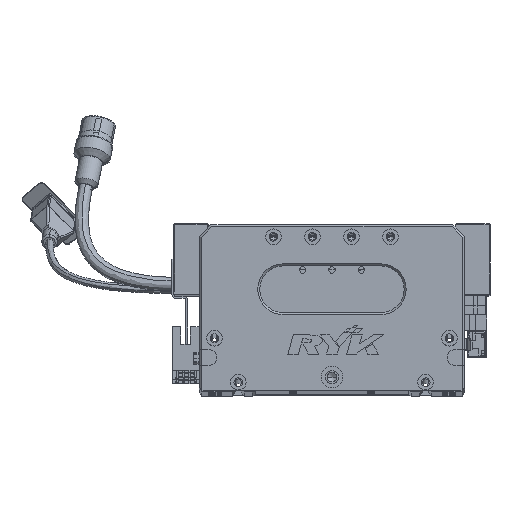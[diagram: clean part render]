
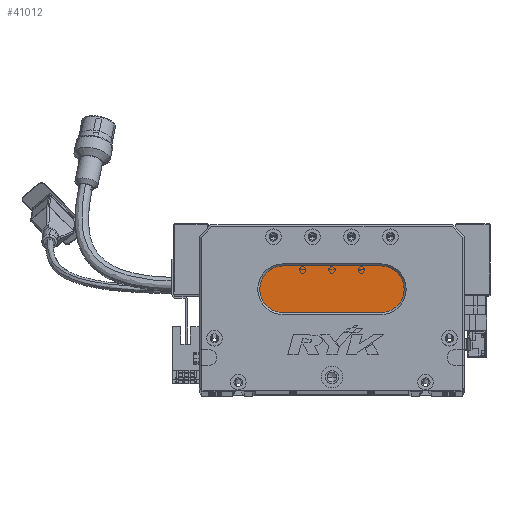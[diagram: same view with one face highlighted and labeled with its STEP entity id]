
A CAD part, top view. The second image highlights one B-rep face of the part: STEP entity #41012.
In plain terms, the highlighted planar face has unit normal (0, 0, 1) as drawn and (0, 0, -1) by its records, which use the part's own axes.
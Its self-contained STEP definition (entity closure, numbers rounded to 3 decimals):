
#804 = CIRCLE ( 'NONE', #93440, 12. ) ;
#5431 = CARTESIAN_POINT ( 'NONE',  ( 43., 40., 13. ) ) ;
#7640 = FACE_OUTER_BOUND ( 'NONE', #32267, .T. ) ;
#8315 = CARTESIAN_POINT ( 'NONE',  ( 31., 52., 13. ) ) ;
#8564 = CARTESIAN_POINT ( 'NONE',  ( 43., 52., 13. ) ) ;
#12006 = CARTESIAN_POINT ( 'NONE',  ( 93., 64., 13. ) ) ;
#12590 = CARTESIAN_POINT ( 'NONE',  ( 43., 52., 13. ) ) ;
#17115 = CARTESIAN_POINT ( 'NONE',  ( 93., 52., 13. ) ) ;
#26094 = ORIENTED_EDGE ( 'NONE', *, *, #44877, .T. ) ;
#30304 = VERTEX_POINT ( 'NONE', #88644 ) ;
#30361 = DIRECTION ( 'NONE',  ( 0., 0., -1. ) ) ;
#32196 = VERTEX_POINT ( 'NONE', #85119 ) ;
#32267 = EDGE_LOOP ( 'NONE', ( #82572, #92079, #26094, #59473, #46464 ) ) ;
#33430 = EDGE_CURVE ( 'NONE', #52499, #32196, #49596, .T. ) ;
#34222 = EDGE_CURVE ( 'NONE', #30304, #69364, #51933, .T. ) ;
#34643 = AXIS2_PLACEMENT_3D ( 'NONE', #8564, #51697, #36892 ) ;
#35141 = DIRECTION ( 'NONE',  ( 0., 0., -1. ) ) ;
#36604 = EDGE_CURVE ( 'NONE', #70952, #30304, #804, .T. ) ;
#36892 = DIRECTION ( 'NONE',  ( -1., 0., 0. ) ) ;
#41012 = ADVANCED_FACE ( 'NONE', ( #7640 ), #59331, .T. ) ;
#42487 = DIRECTION ( 'NONE',  ( -1., 0., 0. ) ) ;
#44877 = EDGE_CURVE ( 'NONE', #69364, #52499, #64657, .T. ) ;
#46147 = AXIS2_PLACEMENT_3D ( 'NONE', #67059, #30361, #82508 ) ;
#46464 = ORIENTED_EDGE ( 'NONE', *, *, #51620, .T. ) ;
#46778 = VECTOR ( 'NONE', #57072, 1000. ) ;
#48647 = CARTESIAN_POINT ( 'NONE',  ( 93., 64., 13. ) ) ;
#49078 = LINE ( 'NONE', #12006, #46778 ) ;
#49596 = CIRCLE ( 'NONE', #34643, 12. ) ;
#51620 = EDGE_CURVE ( 'NONE', #32196, #70952, #49078, .T. ) ;
#51697 = DIRECTION ( 'NONE',  ( 0., 0., -1. ) ) ;
#51933 = LINE ( 'NONE', #92780, #84205 ) ;
#52499 = VERTEX_POINT ( 'NONE', #8315 ) ;
#53161 = DIRECTION ( 'NONE',  ( 0., 0., -1. ) ) ;
#57072 = DIRECTION ( 'NONE',  ( 1., 0., 0. ) ) ;
#59331 = PLANE ( 'NONE',  #46147 ) ;
#59473 = ORIENTED_EDGE ( 'NONE', *, *, #33430, .T. ) ;
#64657 = CIRCLE ( 'NONE', #71868, 12. ) ;
#67059 = CARTESIAN_POINT ( 'NONE',  ( 93., 52., 13. ) ) ;
#69364 = VERTEX_POINT ( 'NONE', #5431 ) ;
#70862 = DIRECTION ( 'NONE',  ( -1., 0., 0. ) ) ;
#70952 = VERTEX_POINT ( 'NONE', #48647 ) ;
#71868 = AXIS2_PLACEMENT_3D ( 'NONE', #12590, #35141, #42487 ) ;
#75404 = DIRECTION ( 'NONE',  ( -1., 0., 0. ) ) ;
#82508 = DIRECTION ( 'NONE',  ( -1., 0., 0. ) ) ;
#82572 = ORIENTED_EDGE ( 'NONE', *, *, #36604, .T. ) ;
#84205 = VECTOR ( 'NONE', #70862, 1000. ) ;
#85119 = CARTESIAN_POINT ( 'NONE',  ( 43., 64., 13. ) ) ;
#88644 = CARTESIAN_POINT ( 'NONE',  ( 93., 40., 13. ) ) ;
#92079 = ORIENTED_EDGE ( 'NONE', *, *, #34222, .T. ) ;
#92780 = CARTESIAN_POINT ( 'NONE',  ( 93., 40., 13. ) ) ;
#93440 = AXIS2_PLACEMENT_3D ( 'NONE', #17115, #53161, #75404 ) ;
